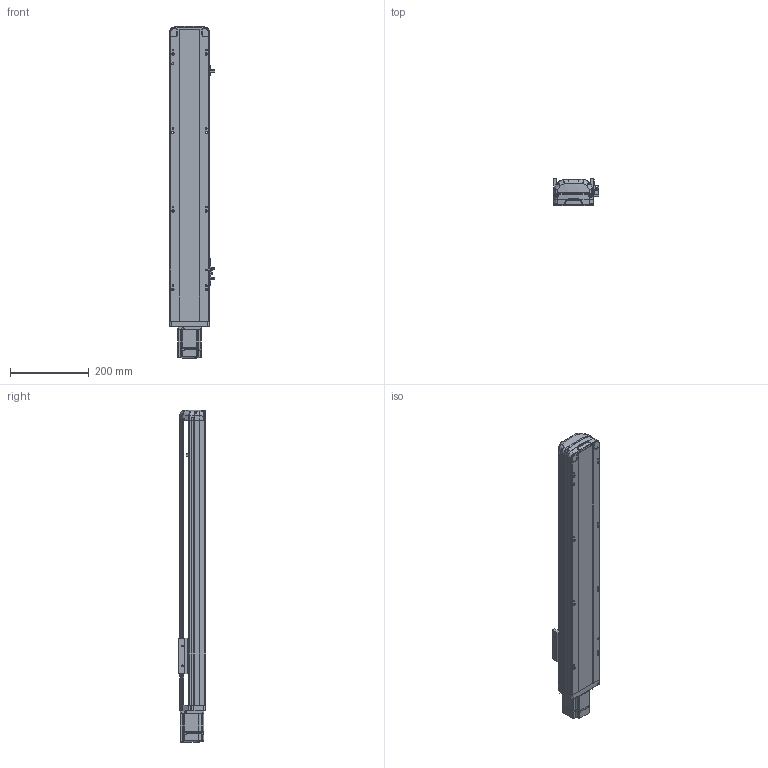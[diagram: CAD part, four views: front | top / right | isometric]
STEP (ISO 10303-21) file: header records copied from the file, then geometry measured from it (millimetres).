
FILE_DESCRIPTION (( 'STEP AP214' ), '1' );
FILE_NAME ('RTH10-XX-500-E-M20-C4.STEP', '2025-10-24T10:43:46', ( '' ), ( '' ), 'SwSTEP 2.0', 'SolidWorks 2018', '' );
FILE_SCHEMA (( 'AUTOMOTIVE_DESIGN' ));
Length unit declared in the file: millimetre
Products named in the file (9): RTH10-XX-500-E-M20-C4; N_RTH12-E-011P-臏倰第菁釱^RTH10-XX-XX-E-M20-C4ㄗ源最宒ㄘ; N_RTH12-GY-004-滑座^RTH10-XX-XX-E-M20-C4（方程式）; N_RTH13-L-012感应片外置^RTH10-XX-XX-E-M20-C4（方程式）; N_RTH12-E-008-M20电机板^RTH10-XX-XX-E-M20-C4（方程式）; N_RTH12-E-007P-奻裔^RTH10-XX-XX-E-M20-C4ㄗ源最宒ㄘ; N_RTH12-GY-001P^RTH10-XX-XX-E-M20-C4（方程式）; N_OMRON EE-SX672 換覜ん^RTH10-XX-XX-E-M20-C4ㄗ源最宒ㄘ; N_200W-1^RTH10-XX-XX-E-M20-C4（方程式）
Assembly tree (10 placements, depth 2):
  RTH10-XX-500-E-M20-C4
    N_RTH12-E-011P-臏倰第菁釱^RTH10-XX-XX-E-M20-C4ㄗ源最宒ㄘ
    N_RTH13-L-012感应片外置^RTH10-XX-XX-E-M20-C4（方程式）
    N_OMRON EE-SX672 換覜ん^RTH10-XX-XX-E-M20-C4ㄗ源最宒ㄘ  x3
    N_RTH12-E-007P-奻裔^RTH10-XX-XX-E-M20-C4ㄗ源最宒ㄘ
    N_RTH12-GY-001P^RTH10-XX-XX-E-M20-C4（方程式）
    N_RTH12-GY-004-滑座^RTH10-XX-XX-E-M20-C4（方程式）
    N_200W-1^RTH10-XX-XX-E-M20-C4（方程式）
    N_RTH12-E-008-M20电机板^RTH10-XX-XX-E-M20-C4（方程式）
Bounding box: 116.5 x 70 x 845.14 mm (x, y, z)
Volume: 3253772 mm3; surface area: 514329.6 mm2
Topology: 9 solids, 11 shells, 1988 faces, 5518 edges, 3622 vertices
Faces by surface type: plane 1004, cylinder 477, bspline 472, cone 33, torus 2
Entity records: 59616 total; most frequent: CARTESIAN_POINT 23314, ORIENTED_EDGE 8116, DIRECTION 6294, EDGE_CURVE 4064, VERTEX_POINT 2666, LINE 2202, VECTOR 2202, AXIS2_PLACEMENT_3D 2046
